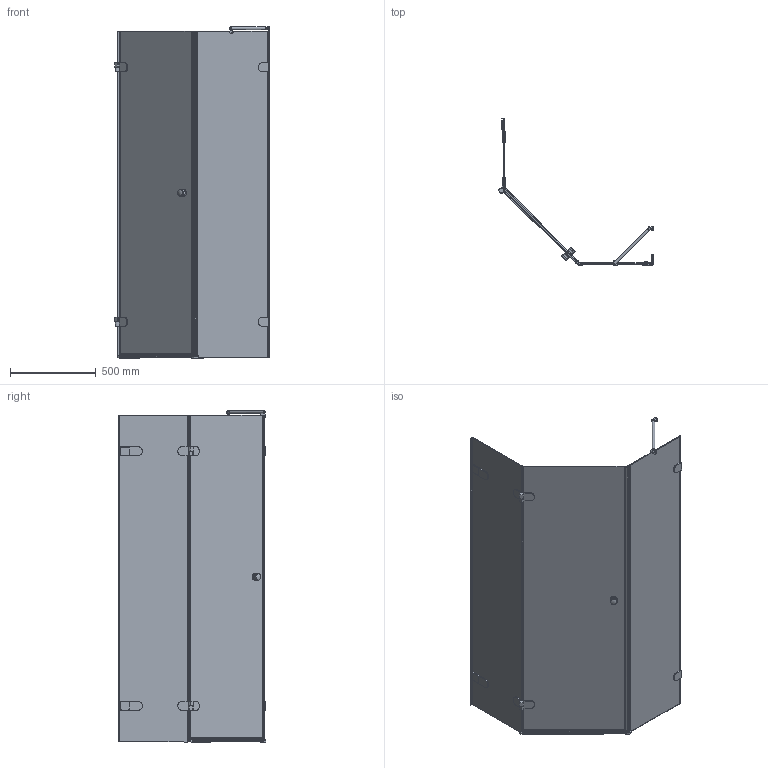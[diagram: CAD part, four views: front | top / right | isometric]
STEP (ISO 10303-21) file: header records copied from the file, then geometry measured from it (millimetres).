
FILE_DESCRIPTION(/* description */ (''),/* implementation_level */ '2;1');
FILE_NAME(/* name */ 'D:\4\777\LUX FESTT GK-001-2522Z\LUX FESTT GK-001-2522Z левая модель\LUX FESTT GK-001-2522Z ЛЕВАЯ-3D.stp',/* time_stamp */ '2018-03-19T13:24:19+03:00',/* author */ ('ChechurovS'),/* organization */ (''),/* preprocessor_version */ 'ST-DEVELOPER v15.2',/* originating_system */ 'Autodesk Inventor 2014',/* authorisation */ '');
FILE_SCHEMA (('CONFIG_CONTROL_DESIGN'));
Length unit declared in the file: millimetre
Products named in the file (1): LUX FESTT GK-001-2522Z ЛЕВАЯ-3D
Bounding box: 898.92 x 857.08 x 1931.5 mm (x, y, z)
Volume: 17494872 mm3; surface area: 6057343.8 mm2
Topology: 20 solids, 20 shells, 635 faces, 1703 edges, 1112 vertices
Faces by surface type: plane 426, cylinder 169, torus 17, bspline 14, sphere 7, cone 2
Full cylindrical faces by diameter (mm): 15 x1, 20 x2, 26 x1, 35 x2, 38 x4, 40 x2
Entity records: 21168 total; most frequent: CARTESIAN_POINT 4552, ORIENTED_EDGE 3338, DIRECTION 3253, EDGE_CURVE 1667, LINE 1213, VECTOR 1213, VERTEX_POINT 1103, AXIS2_PLACEMENT_3D 1020
